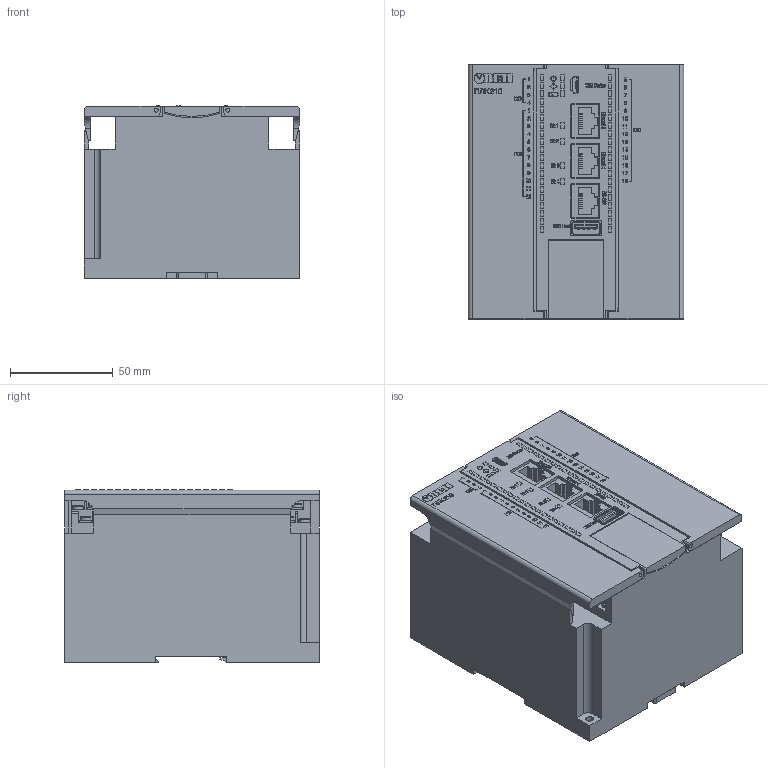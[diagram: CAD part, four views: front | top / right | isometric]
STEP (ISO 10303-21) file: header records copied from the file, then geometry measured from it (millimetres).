
FILE_DESCRIPTION (( 'STEP AP214' ), '1' );
FILE_NAME ('3D ìîäåëü ÏËÊ210-01-CS.STEP', '2020-07-13T11:15:31', ( '' ), ( '' ), 'SwSTEP 2.0', 'SolidWorks 2015', '' );
FILE_SCHEMA (( 'AUTOMOTIVE_DESIGN' ));
Length unit declared in the file: millimetre
Products named in the file (14): Ïåðåêëþ÷àòåëü ñòàðò_ñòîï_00; 3D ìîäåëü ÏËÊ210-01-CS; SD-card_00; Êðûøêà_êëåììíàÿ_00; Ethernet; 署赅-耠铗钼_00; Ðîçåòêà ÏËÊ210; Êëåììíèê 2çåë; Ôèêñàòîð ÏËÊ210; 咈斀霠罻_00; Êîðïóñ ÏËÊ210_00; micro usb b; Êðûøêà_êëåììíàÿ_ïðàâàÿ_00; USB A
Assembly tree (20 placements, depth 2):
  3D ìîäåëü ÏËÊ210-01-CS
    Êîðïóñ ÏËÊ210_00
    Ethernet  x5
    Êëåììíèê 2çåë  x2
    USB A
    Ôèêñàòîð ÏËÊ210
    micro usb b
    Ðîçåòêà ÏËÊ210  x2
    署赅-耠铗钼_00
    Êðûøêà_êëåììíàÿ_00
    Êðûøêà_êëåììíàÿ_ïðàâàÿ_00
    Ïåðåêëþ÷àòåëü ñòàðò_ñòîï_00
    咈斀霠罻_00  x2
    SD-card_00
Bounding box: 105 x 124.01 x 84.2 mm (x, y, z)
Volume: 940157.3 mm3; surface area: 154806 mm2
Topology: 81 solids, 81 shells, 10076 faces, 28583 edges, 19059 vertices
Faces by surface type: plane 9587, cylinder 253, torus 116, cone 116, bspline 4
Full cylindrical faces by diameter (mm): 1 x2, 1.2 x2, 2 x12, 3.7 x2, 5.2 x56, 5.5 x4
Entity records: 382855 total; most frequent: CARTESIAN_POINT 53419, ORIENTED_EDGE 51528, DIRECTION 44164, EDGE_CURVE 25764, VECTOR 24770, LINE 24770, VERTEX_POINT 17200, AXIS2_PLACEMENT_3D 9697
